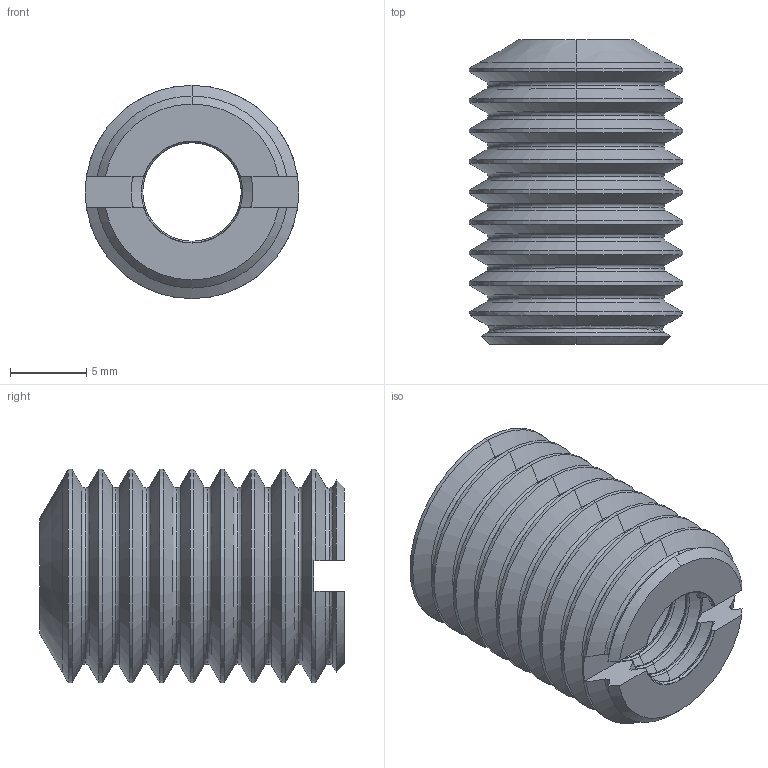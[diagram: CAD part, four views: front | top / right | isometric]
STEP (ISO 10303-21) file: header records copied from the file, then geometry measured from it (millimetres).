
FILE_DESCRIPTION (( 'STEP AP214' ), '1' );
FILE_NAME ('3.04.hrb.m8.STEP', '2015-05-30T09:57:57', ( '' ), ( '' ), 'SwSTEP 2.0', 'SolidWorks 2015', '' );
FILE_SCHEMA (( 'AUTOMOTIVE_DESIGN' ));
Length unit declared in the file: millimetre
Products named in the file (1): 3.04.hrb.m8
Bounding box: 14 x 20 x 14 mm (x, y, z)
Volume: 1640.9 mm3; surface area: 2171.3 mm2
Topology: 1 solids, 1 shells, 282 faces, 607 edges, 327 vertices
Faces by surface type: cone 115, torus 106, cylinder 51, plane 10
Entity records: 7690 total; most frequent: DIRECTION 1506, CARTESIAN_POINT 1421, ORIENTED_EDGE 1214, AXIS2_PLACEMENT_3D 668, EDGE_CURVE 607, CIRCLE 385, VERTEX_POINT 327, EDGE_LOOP 284
